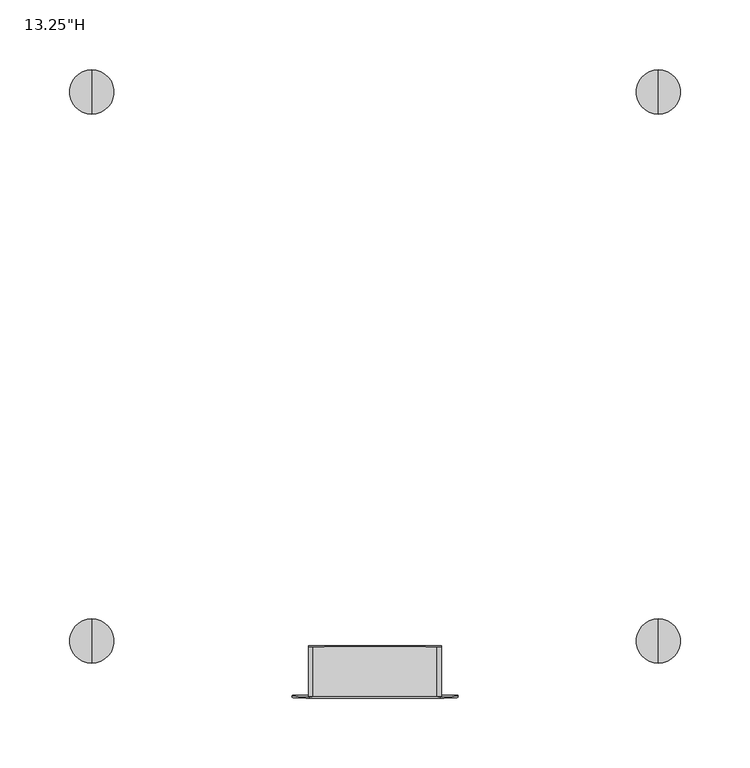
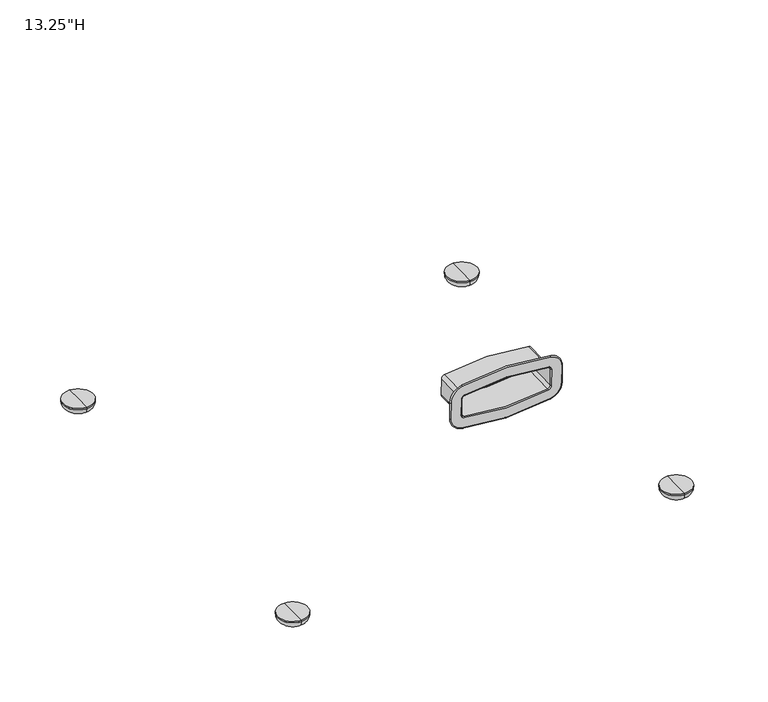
"""IFC4 building model written with IfcOpenShell, lengths in millimetres: furniture geometry."""

from ifc_helpers import new_model, si_unit, point, frame, origin, place, context, project, spatial, polyline, circle_curve, ellipse_curve, trimmed, source, transform, mapped, element, save
from ifc_brep_helpers import plane_surface, cylinder_surface, revolved_surface, advanced_brep


def furniture_26db92c6(model_context):
    return source(origin(), model_context, "Body", "AdvancedBrep", [
        advanced_brep(
        [(44.3659332, -201.1031328, 197.3409268), (46.9155939, -201.1835637, 200.4747075), (46.9155939, -201.6446412, 218.4393961), (44.3659332, -201.7250721, 221.5731768), (-44.3659332, -201.7250721, 221.5731768), (-46.9155939, -201.6446412, 218.4393961), (-46.9155939, -201.1835637, 200.4747075), (-44.3659332, -201.1031328, 197.3409268), (47.7093439, -200.390075, 200.495073), (44.5276348, -200.2897057, 196.5844434), (-44.5276348, -200.2897057, 196.5844434), (-47.7093439, -200.390075, 200.495073), (-47.7093439, -200.8511526, 218.4597616), (-44.5276348, -200.9515219, 222.3703912), (44.5276348, -200.9515219, 222.3703912), (47.7093439, -200.8511526, 218.4597616), (47.7093439, -235.9314742, 199.5828757), (44.5276348, -235.8311049, 195.6722461), (58.8197535, -236.8878332, 199.55833), (46.7910317, -236.5083785, 184.7738628), (46.9492903, -235.5325056, 184.0381004), (59.5966028, -235.9314742, 199.5828757), (46.9155939, -236.0943445, 199.5786955), (44.3659332, -236.0139136, 196.4449148), (44.5276348, -236.7874639, 195.6477005), (47.7093439, -236.8878332, 199.55833), (47.7093439, -236.3925517, 217.5475643), (59.5966028, -236.3925517, 217.5475643), (58.8197535, -237.3489107, 217.5230186), (47.7093439, -237.3489107, 217.5230186), (46.9155939, -236.555422, 217.5433841), (44.5276348, -236.492921, 221.4581939), (46.9492903, -236.7915203, 233.0923396), (46.7910317, -237.7283654, 232.3074859), (44.5276348, -237.44928, 221.4336482), (44.3659332, -236.6358529, 220.6771648), (-44.5276348, -236.492921, 221.4581939), (-46.9492903, -236.7915203, 233.0923396), (-46.7910317, -237.7283654, 232.3074859), (-44.5276348, -237.44928, 221.4336482), (-44.3659332, -236.6358529, 220.6771648), (-47.7093439, -236.3925517, 217.5475643), (-59.5966028, -236.3925517, 217.5475643), (-58.8197535, -237.3489107, 217.5230186), (-47.7093439, -237.3489107, 217.5230186), (-46.9155939, -236.555422, 217.5433841), (-47.7093439, -235.9314742, 199.5828757), (-59.5966028, -235.9314742, 199.5828757), (-58.8197535, -236.8878332, 199.55833), (-47.7093439, -236.8878332, 199.55833), (-46.9155939, -236.0943445, 199.5786955), (-44.5276348, -235.8311049, 195.6722461), (-46.9492903, -235.5325056, 184.0381004), (-46.7910317, -236.5083785, 184.7738628), (-44.5276348, -236.7874639, 195.6477005), (-44.3659332, -236.0139136, 196.4449148)],
        [
            (0, 1, circle_curve(frame((43.7136345, -201.1835637, 200.4747075), z_axis=(0.0, -0.999670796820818, -0.02565731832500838), x_axis=(0.20371858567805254, 0.025119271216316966, -0.9787071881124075)), 3.2019594)),
            (1, 2),
            (2, 3, circle_curve(frame((43.7136345, -201.6446412, 218.4393961), z_axis=(0.0, -0.999670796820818, -0.02565731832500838), x_axis=(1.0, 0.0, 0.0)), 3.2019594)),
            (3, 4, circle_curve(frame((0.0, -196.254585, 8.4298471), z_axis=(0.0, -0.999670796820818, -0.02565731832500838), x_axis=(0.2037185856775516, -0.025119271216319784, 0.9787071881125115)), 217.7804887)),
            (4, 5, circle_curve(frame((-43.7136345, -201.6446412, 218.4393961), z_axis=(0.0, -0.999670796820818, -0.02565731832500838), x_axis=(-0.20371858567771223, -0.02511927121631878, 0.9787071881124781)), 3.2019594)),
            (5, 6),
            (6, 7, circle_curve(frame((-43.7136345, -201.1835637, 200.4747075), z_axis=(0.0, -0.999670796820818, -0.02565731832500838), x_axis=(-1.0, 0.0, 0.0)), 3.2019594)),
            (7, 0, circle_curve(frame((0.0, -206.57362, 410.4842565), z_axis=(0.0, -0.999670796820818, -0.02565731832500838), x_axis=(-0.2037185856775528, 0.02511927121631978, -0.9787071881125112)), 217.7804887)),
            (8, 9, circle_curve(frame((43.7136345, -200.390075, 200.495073), z_axis=(0.0, 0.999670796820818, 0.02565731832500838), x_axis=(0.20371858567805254, 0.025119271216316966, -0.9787071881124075)), 3.9957094)),
            (9, 10, circle_curve(frame((0.0, -205.7801313, 410.504622), z_axis=(0.0, 0.999670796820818, 0.02565731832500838), x_axis=(-0.2037185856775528, 0.02511927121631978, -0.9787071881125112)), 218.5742387)),
            (10, 11, circle_curve(frame((-43.7136345, -200.390075, 200.495073), z_axis=(0.0, 0.999670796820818, 0.02565731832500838), x_axis=(-1.0, 0.0, 0.0)), 3.9957094)),
            (11, 12),
            (12, 13, circle_curve(frame((-43.7136345, -200.8511526, 218.4597616), z_axis=(0.0, 0.999670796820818, 0.02565731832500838), x_axis=(-0.20371858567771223, -0.02511927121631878, 0.9787071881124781)), 3.9957094)),
            (13, 14, circle_curve(frame((0.0, -195.4610963, 8.4502126), z_axis=(0.0, 0.999670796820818, 0.02565731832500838), x_axis=(0.2037185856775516, -0.025119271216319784, 0.9787071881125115)), 218.5742387)),
            (14, 15, circle_curve(frame((43.7136345, -200.8511526, 218.4597616), z_axis=(0.0, 0.999670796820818, 0.02565731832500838), x_axis=(1.0, 0.0, 0.0)), 3.9957094)),
            (15, 8),
            (16, 17, circle_curve(frame((43.7136345, -235.9314742, 199.5828757), z_axis=(0.0, 0.999670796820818, 0.02565731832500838), x_axis=(0.20371858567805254, 0.025119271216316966, -0.9787071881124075)), 3.9957094)),
            (17, 9),
            (8, 16),
            (18, 19, circle_curve(frame((43.7136345, -236.8878332, 199.55833), z_axis=(0.0, 0.999670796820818, 0.02565731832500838), x_axis=(0.20371858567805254, 0.025119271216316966, -0.9787071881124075)), 15.106119)),
            (19, 20, circle_curve(frame((46.7910317, -235.7148898, 184.7942283), z_axis=(0.9790294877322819, -0.005226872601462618, 0.2036515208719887), x_axis=(-0.20371858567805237, -0.025119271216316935, 0.9787071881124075)), 0.79375)),
            (20, 21, circle_curve(frame((43.7136345, -235.9314742, 199.5828757), z_axis=(0.0, -0.999670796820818, -0.02565731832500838), x_axis=(0.20371858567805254, 0.025119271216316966, -0.9787071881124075)), 15.8829683)),
            (21, 18, circle_curve(frame((58.8197535, -236.0943445, 199.5786955), z_axis=(0.0, 0.025657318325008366, -0.9996707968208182), x_axis=(-1.0000000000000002, 0.0, 0.0)), 0.79375)),
            (22, 23, circle_curve(frame((43.7136345, -236.0943445, 199.5786955), z_axis=(0.0, 0.999670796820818, 0.02565731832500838), x_axis=(0.20371858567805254, 0.025119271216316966, -0.9787071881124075)), 3.2019594)),
            (23, 24, circle_curve(frame((44.5276348, -235.9939752, 195.668066), z_axis=(0.9790294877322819, -0.005226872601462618, 0.2036515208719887), x_axis=(-0.20371858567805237, -0.025119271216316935, 0.9787071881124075)), 0.79375)),
            (24, 25, circle_curve(frame((43.7136345, -236.8878332, 199.55833), z_axis=(0.0, -0.999670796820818, -0.02565731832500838), x_axis=(0.20371858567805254, 0.025119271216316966, -0.9787071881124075)), 3.9957094)),
            (25, 22, circle_curve(frame((47.7093439, -236.0943445, 199.5786955), z_axis=(0.0, 0.02565731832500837, -0.9996707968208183), x_axis=(-1.0000000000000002, 0.0, 0.0)), 0.79375)),
            (22, 1),
            (0, 23),
            (15, 26),
            (26, 16),
            (21, 27),
            (27, 28, circle_curve(frame((58.8197535, -236.555422, 217.5433841), z_axis=(0.0, 0.02565731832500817, -0.999670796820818), x_axis=(-1.0, 0.0, 0.0)), 0.79375)),
            (28, 18),
            (25, 29),
            (29, 30, circle_curve(frame((47.7093439, -236.555422, 217.5433841), z_axis=(0.0, 0.02565731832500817, -0.999670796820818), x_axis=(-1.0, 0.0, 0.0)), 0.79375)),
            (30, 22),
            (30, 2),
            (14, 31),
            (31, 26, circle_curve(frame((43.7136345, -236.3925517, 217.5475643), z_axis=(0.0, 0.999670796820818, 0.02565731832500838), x_axis=(1.0, 0.0, 0.0)), 3.9957094)),
            (27, 32, circle_curve(frame((43.7136345, -236.3925517, 217.5475643), z_axis=(0.0, -0.999670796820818, -0.02565731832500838), x_axis=(1.0, 0.0, 0.0)), 15.8829683)),
            (32, 33, circle_curve(frame((46.7910317, -236.9348767, 232.3278514), z_axis=(0.9790294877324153, 0.005226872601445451, -0.20365152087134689), x_axis=(-0.20371858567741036, 0.025119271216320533, -0.9787071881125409)), 0.79375)),
            (33, 28, circle_curve(frame((43.7136345, -237.3489107, 217.5230186), z_axis=(0.0, 0.999670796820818, 0.02565731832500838), x_axis=(1.0, 0.0, 0.0)), 15.106119)),
            (29, 34, circle_curve(frame((43.7136345, -237.3489107, 217.5230186), z_axis=(0.0, -0.999670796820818, -0.02565731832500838), x_axis=(1.0, 0.0, 0.0)), 3.9957094)),
            (34, 35, circle_curve(frame((44.5276348, -236.6557914, 221.4540137), z_axis=(0.9790294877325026, 0.005226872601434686, -0.20365152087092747), x_axis=(-0.2037185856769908, 0.025119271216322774, -0.9787071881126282)), 0.79375)),
            (35, 30, circle_curve(frame((43.7136345, -236.555422, 217.5433841), z_axis=(0.0, 0.999670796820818, 0.02565731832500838), x_axis=(1.0, 0.0, 0.0)), 3.2019594)),
            (35, 3),
            (13, 36),
            (36, 31, circle_curve(frame((0.0, -231.0024954, 7.5380153), z_axis=(0.0, 0.999670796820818, 0.02565731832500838), x_axis=(0.2037185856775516, -0.025119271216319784, 0.9787071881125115)), 218.5742387)),
            (32, 37, circle_curve(frame((0.0, -231.0024954, 7.5380153), z_axis=(0.0, -0.999670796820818, -0.02565731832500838), x_axis=(0.2037185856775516, -0.025119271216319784, 0.9787071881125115)), 230.4614976)),
            (37, 38, circle_curve(frame((-46.7910317, -236.9348767, 232.3278514), z_axis=(0.9790294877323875, -0.005226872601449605, 0.20365152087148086), x_axis=(0.20371858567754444, 0.025119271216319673, -0.978707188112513)), 0.79375)),
            (38, 33, circle_curve(frame((0.0, -231.9588545, 7.5134696), z_axis=(0.0, 0.999670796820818, 0.02565731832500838), x_axis=(0.2037185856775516, -0.025119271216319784, 0.9787071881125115)), 229.6846483)),
            (34, 39, circle_curve(frame((0.0, -231.9588545, 7.5134696), z_axis=(0.0, -0.999670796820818, -0.02565731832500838), x_axis=(0.2037185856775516, -0.025119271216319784, 0.9787071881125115)), 218.5742387)),
            (39, 40, circle_curve(frame((-44.5276348, -236.6557914, 221.4540137), z_axis=(0.9790294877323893, -0.0052268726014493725, 0.2036515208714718), x_axis=(0.20371858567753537, 0.025119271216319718, -0.9787071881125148)), 0.79375)),
            (40, 35, circle_curve(frame((0.0, -231.1653658, 7.5338351), z_axis=(0.0, 0.999670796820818, 0.02565731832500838), x_axis=(0.2037185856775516, -0.025119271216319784, 0.9787071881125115)), 217.7804887)),
            (40, 4),
            (12, 41),
            (41, 36, circle_curve(frame((-43.7136345, -236.3925517, 217.5475643), z_axis=(0.0, 0.999670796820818, 0.02565731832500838), x_axis=(-0.20371858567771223, -0.02511927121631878, 0.9787071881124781)), 3.9957094)),
            (37, 42, circle_curve(frame((-43.7136345, -236.3925517, 217.5475643), z_axis=(0.0, -0.999670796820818, -0.02565731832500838), x_axis=(-0.20371858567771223, -0.02511927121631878, 0.9787071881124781)), 15.8829683)),
            (42, 43, circle_curve(frame((-58.8197535, -236.555422, 217.5433841), z_axis=(0.0, -0.025657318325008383, 0.9996707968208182), x_axis=(1.0000000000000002, 0.0, 0.0)), 0.79375)),
            (43, 38, circle_curve(frame((-43.7136345, -237.3489107, 217.5230186), z_axis=(0.0, 0.999670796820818, 0.02565731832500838), x_axis=(-0.20371858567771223, -0.02511927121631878, 0.9787071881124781)), 15.106119)),
            (39, 44, circle_curve(frame((-43.7136345, -237.3489107, 217.5230186), z_axis=(0.0, -0.999670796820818, -0.02565731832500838), x_axis=(-0.20371858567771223, -0.02511927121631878, 0.9787071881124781)), 3.9957094)),
            (44, 45, circle_curve(frame((-47.7093439, -236.555422, 217.5433841), z_axis=(0.0, -0.025657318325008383, 0.999670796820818), x_axis=(1.0000000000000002, 0.0, 0.0)), 0.79375)),
            (45, 40, circle_curve(frame((-43.7136345, -236.555422, 217.5433841), z_axis=(0.0, 0.999670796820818, 0.02565731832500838), x_axis=(-0.20371858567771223, -0.02511927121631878, 0.9787071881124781)), 3.2019594)),
            (45, 5),
            (11, 46),
            (46, 41),
            (42, 47),
            (47, 48, circle_curve(frame((-58.8197535, -236.0943445, 199.5786955), z_axis=(0.0, -0.02565731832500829, 0.999670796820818), x_axis=(1.0, 0.0, 0.0)), 0.79375)),
            (48, 43),
            (44, 49),
            (49, 50, circle_curve(frame((-47.7093439, -236.0943445, 199.5786955), z_axis=(0.0, -0.02565731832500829, 0.999670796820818), x_axis=(1.0, 0.0, 0.0)), 0.79375)),
            (50, 45),
            (50, 6),
            (10, 51),
            (51, 46, circle_curve(frame((-43.7136345, -235.9314742, 199.5828757), z_axis=(0.0, 0.999670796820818, 0.02565731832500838), x_axis=(-1.0, 0.0, 0.0)), 3.9957094)),
            (47, 52, circle_curve(frame((-43.7136345, -235.9314742, 199.5828757), z_axis=(0.0, -0.999670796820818, -0.02565731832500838), x_axis=(-1.0, 0.0, 0.0)), 15.8829683)),
            (52, 53, circle_curve(frame((-46.7910317, -235.7148898, 184.7942283), z_axis=(-0.9790294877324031, -0.005226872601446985, 0.20365152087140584), x_axis=(0.2037185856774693, -0.02511927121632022, 0.9787071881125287)), 0.79375)),
            (53, 48, circle_curve(frame((-43.7136345, -236.8878332, 199.55833), z_axis=(0.0, 0.999670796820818, 0.02565731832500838), x_axis=(-1.0, 0.0, 0.0)), 15.106119)),
            (49, 54, circle_curve(frame((-43.7136345, -236.8878332, 199.55833), z_axis=(0.0, -0.999670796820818, -0.02565731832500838), x_axis=(-1.0, 0.0, 0.0)), 3.9957094)),
            (54, 55, circle_curve(frame((-44.5276348, -235.9939752, 195.668066), z_axis=(-0.9790294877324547, -0.005226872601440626, 0.2036515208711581), x_axis=(0.20371858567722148, -0.025119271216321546, 0.9787071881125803)), 0.79375)),
            (55, 50, circle_curve(frame((-43.7136345, -236.0943445, 199.5786955), z_axis=(0.0, 0.999670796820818, 0.02565731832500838), x_axis=(-1.0, 0.0, 0.0)), 3.2019594)),
            (55, 7),
            (17, 51, circle_curve(frame((0.0, -241.3215305, 409.5924247), z_axis=(0.0, 0.999670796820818, 0.02565731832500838), x_axis=(-0.2037185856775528, 0.02511927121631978, -0.9787071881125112)), 218.5742387)),
            (20, 52, circle_curve(frame((0.0, -241.3215305, 409.5924247), z_axis=(0.0, 0.999670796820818, 0.02565731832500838), x_axis=(-0.2037185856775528, 0.02511927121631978, -0.9787071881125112)), 230.4614976)),
            (19, 53, circle_curve(frame((0.0, -242.2778895, 409.567879), z_axis=(0.0, 0.999670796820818, 0.02565731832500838), x_axis=(-0.2037185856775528, 0.02511927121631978, -0.9787071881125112)), 229.6846483)),
            (24, 54, circle_curve(frame((0.0, -242.2778895, 409.567879), z_axis=(0.0, 0.999670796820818, 0.02565731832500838), x_axis=(-0.2037185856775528, 0.02511927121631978, -0.9787071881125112)), 218.5742387)),
            (23, 55, circle_curve(frame((0.0, -241.4844008, 409.5882445), z_axis=(0.0, 0.999670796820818, 0.02565731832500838), x_axis=(-0.2037185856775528, 0.02511927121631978, -0.9787071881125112)), 217.7804887)),
        ],
        [
            plane_surface(frame((-40.5788218, -201.627905, 217.7873122), z_axis=(0.0, -0.999670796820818, -0.02565731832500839), x_axis=(0.20371858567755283, -0.025119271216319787, 0.9787071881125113))),
            plane_surface(frame((-40.5788218, -200.8344163, 217.8076777), z_axis=(0.0, 0.999670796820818, 0.02565731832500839), x_axis=(-0.20371858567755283, 0.025119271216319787, -0.9787071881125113))),
            cylinder_surface(frame((43.7136345, -235.9314742, 199.5828757), z_axis=(0.0, -0.999670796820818, -0.02565731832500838), x_axis=(0.20371858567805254, 0.025119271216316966, -0.9787071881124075)), 3.9957094),
            revolved_surface(trimmed(ellipse_curve(frame((46.7910317, -235.7148898, 184.7942283), z_axis=(-0.9790294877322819, 0.005226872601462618, -0.2036515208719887), x_axis=(-0.20371858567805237, -0.025119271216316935, 0.9787071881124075)), 0.79375, 0.79375), [point((46.9492903, -235.5325056, 184.0381004))], [point((46.7910317, -236.5083785, 184.7738628))], True, "CARTESIAN"), (43.7136345, -235.9314742, 199.5828757), (0.0, -0.999670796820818, -0.02565731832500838)),
            revolved_surface(trimmed(ellipse_curve(frame((44.5276348, -235.9939752, 195.668066), z_axis=(-0.9790294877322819, 0.005226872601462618, -0.2036515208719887), x_axis=(-0.20371858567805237, -0.025119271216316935, 0.9787071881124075)), 0.79375, 0.79375), [point((44.5276348, -236.7874639, 195.6477005))], [point((44.3659332, -236.0139136, 196.4449148))], True, "CARTESIAN"), (43.7136345, -235.9314742, 199.5828757), (0.0, -0.999670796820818, -0.02565731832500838)),
            revolved_surface(polyline([(44.36593314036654, -236.01391361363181, 196.4449148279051), (44.36593314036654, -201.10313280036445, 197.34092681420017)]), (43.7136345, -235.9314742, 199.5828757), (0.0, -0.999670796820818, -0.02565731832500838)),
            plane_surface(frame((47.7093439, -200.390075, 200.495073), z_axis=(1.0, 0.0, 0.0), x_axis=(0.0, -0.025657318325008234, 0.999670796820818))),
            cylinder_surface(frame((58.8197535, -236.0943445, 199.5786955), z_axis=(0.0, 0.02565731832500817, -0.999670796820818), x_axis=(-1.0, 0.0, 0.0)), 0.79375),
            cylinder_surface(frame((47.7093439, -236.0943445, 199.5786955), z_axis=(0.0, 0.02565731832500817, -0.999670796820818), x_axis=(-1.0, 0.0, 0.0)), 0.79375),
            plane_surface(frame((46.9155939, -236.0943445, 199.5786955), z_axis=(-1.0, 0.0, 0.0), x_axis=(0.0, -0.025657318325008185, 0.999670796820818))),
            cylinder_surface(frame((43.7136345, -236.3925517, 217.5475643), z_axis=(0.0, -0.999670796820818, -0.02565731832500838), x_axis=(1.0, 0.0, 0.0)), 3.9957094),
            revolved_surface(trimmed(ellipse_curve(frame((58.8197535, -236.555422, 217.5433841), z_axis=(0.0, 0.025657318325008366, -0.999670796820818), x_axis=(-1.0, 0.0, 0.0)), 0.79375, 0.79375), [point((59.5966028, -236.3925517, 217.5475643))], [point((58.8197535, -237.3489107, 217.5230186))], True, "CARTESIAN"), (43.7136345, -236.3925517, 217.5475643), (0.0, -0.999670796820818, -0.02565731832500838)),
            revolved_surface(trimmed(ellipse_curve(frame((47.7093439, -236.555422, 217.5433841), z_axis=(0.0, 0.025657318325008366, -0.999670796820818), x_axis=(-1.0, 0.0, 0.0)), 0.79375, 0.79375), [point((47.7093439, -237.3489107, 217.5230186))], [point((46.9155939, -236.555422, 217.5433841))], True, "CARTESIAN"), (43.7136345, -236.3925517, 217.5475643), (0.0, -0.999670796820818, -0.02565731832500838)),
            revolved_surface(polyline([(46.9155939, -236.55542201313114, 217.54338410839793), (46.9155939, -201.64464119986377, 218.43939609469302)]), (43.7136345, -236.3925517, 217.5475643), (0.0, -0.999670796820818, -0.02565731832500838)),
            cylinder_surface(frame((0.0, -231.0024954, 7.5380153), z_axis=(0.0, -0.999670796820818, -0.02565731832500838), x_axis=(0.2037185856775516, -0.025119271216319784, 0.9787071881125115)), 218.5742387),
            revolved_surface(trimmed(ellipse_curve(frame((46.7910317, -236.9348767, 232.3278514), z_axis=(0.979029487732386, 0.005226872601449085, -0.20365152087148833), x_axis=(-0.20371858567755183, 0.025119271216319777, -0.9787071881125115)), 0.79375, 0.79375), [point((46.9492903, -236.7915203, 233.0923396))], [point((46.7910317, -237.7283654, 232.3074859))], True, "CARTESIAN"), (0.0, -231.0024954, 7.5380153), (0.0, -0.999670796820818, -0.02565731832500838)),
            revolved_surface(trimmed(ellipse_curve(frame((44.5276348, -236.6557914, 221.4540137), z_axis=(0.979029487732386, 0.005226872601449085, -0.20365152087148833), x_axis=(-0.20371858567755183, 0.025119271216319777, -0.9787071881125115)), 0.79375, 0.79375), [point((44.5276348, -237.44928, 221.4336482))], [point((44.3659332, -236.6358529, 220.6771648))], True, "CARTESIAN"), (0.0, -231.0024954, 7.5380153), (0.0, -0.999670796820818, -0.02565731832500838)),
            revolved_surface(polyline([(44.36593314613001, -236.63585296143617, 220.67716482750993), (44.36593314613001, -201.7250721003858, 221.5731768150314)]), (0.0, -231.0024954, 7.5380153), (0.0, -0.999670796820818, -0.02565731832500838)),
            cylinder_surface(frame((-43.7136345, -236.3925517, 217.5475643), z_axis=(0.0, -0.999670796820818, -0.02565731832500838), x_axis=(-0.20371858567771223, -0.02511927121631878, 0.9787071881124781)), 3.9957094),
            revolved_surface(trimmed(ellipse_curve(frame((-46.7910317, -236.9348767, 232.3278514), z_axis=(0.9790294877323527, -0.005226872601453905, 0.2036515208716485), x_axis=(0.20371858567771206, 0.025119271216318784, -0.9787071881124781)), 0.79375, 0.79375), [point((-46.9492903, -236.7915203, 233.0923396))], [point((-46.7910317, -237.7283654, 232.3074859))], True, "CARTESIAN"), (-43.7136345, -236.3925517, 217.5475643), (0.0, -0.999670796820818, -0.02565731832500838)),
            revolved_surface(trimmed(ellipse_curve(frame((-44.5276348, -236.6557914, 221.4540137), z_axis=(0.9790294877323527, -0.005226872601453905, 0.2036515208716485), x_axis=(0.20371858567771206, 0.025119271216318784, -0.9787071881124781)), 0.79375, 0.79375), [point((-44.5276348, -237.44928, 221.4336482))], [point((-44.3659332, -236.6358529, 220.6771648))], True, "CARTESIAN"), (-43.7136345, -236.3925517, 217.5475643), (0.0, -0.999670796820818, -0.02565731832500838)),
            revolved_surface(polyline([(-44.365933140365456, -236.63585289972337, 220.67716478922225), (-44.365933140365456, -201.725072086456, 221.57317677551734)]), (-43.7136345, -236.3925517, 217.5475643), (0.0, -0.999670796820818, -0.02565731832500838)),
            plane_surface(frame((-47.7093439, -200.8511526, 218.4597616), z_axis=(-1.0, 0.0, 0.0), x_axis=(0.0, 0.025657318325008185, -0.999670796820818))),
            cylinder_surface(frame((-58.8197535, -236.555422, 217.5433841), z_axis=(0.0, -0.02565731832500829, 0.999670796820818), x_axis=(1.0, 0.0, 0.0)), 0.79375),
            cylinder_surface(frame((-47.7093439, -236.555422, 217.5433841), z_axis=(0.0, -0.02565731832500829, 0.999670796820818), x_axis=(1.0, 0.0, 0.0)), 0.79375),
            plane_surface(frame((-46.9155939, -236.555422, 217.5433841), z_axis=(1.0, 0.0, 0.0), x_axis=(0.0, 0.025657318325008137, -0.999670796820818))),
            cylinder_surface(frame((-43.7136345, -235.9314742, 199.5828757), z_axis=(0.0, -0.999670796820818, -0.02565731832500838), x_axis=(-1.0, 0.0, 0.0)), 3.9957094),
            revolved_surface(trimmed(ellipse_curve(frame((-58.8197535, -236.0943445, 199.5786955), z_axis=(0.0, -0.025657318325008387, 0.999670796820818), x_axis=(1.0, 0.0, 0.0)), 0.79375, 0.79375), [point((-59.5966028, -235.9314742, 199.5828757))], [point((-58.8197535, -236.8878332, 199.55833))], True, "CARTESIAN"), (-43.7136345, -235.9314742, 199.5828757), (0.0, -0.999670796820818, -0.02565731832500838)),
            revolved_surface(trimmed(ellipse_curve(frame((-47.7093439, -236.0943445, 199.5786955), z_axis=(0.0, -0.025657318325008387, 0.999670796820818), x_axis=(1.0, 0.0, 0.0)), 0.79375, 0.79375), [point((-47.7093439, -236.8878332, 199.55833))], [point((-46.9155939, -236.0943445, 199.5786955))], True, "CARTESIAN"), (-43.7136345, -235.9314742, 199.5828757), (0.0, -0.999670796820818, -0.02565731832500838)),
            revolved_surface(polyline([(-46.9155939, -236.09434450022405, 199.5786955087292), (-46.9155939, -201.1835636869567, 200.47470749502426)]), (-43.7136345, -235.9314742, 199.5828757), (0.0, -0.999670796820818, -0.02565731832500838)),
            cylinder_surface(frame((0.0, -241.3215305, 409.5924247), z_axis=(0.0, -0.999670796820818, -0.02565731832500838), x_axis=(-0.2037185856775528, 0.02511927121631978, -0.9787071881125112)), 218.5742387),
            plane_surface(frame((0.0, -241.3215305, 409.5924247), z_axis=(0.0, 0.999670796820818, 0.025657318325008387), x_axis=(-0.20371858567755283, 0.025119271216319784, -0.9787071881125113))),
            revolved_surface(trimmed(ellipse_curve(frame((-46.7910317, -235.7148898, 184.7942283), z_axis=(-0.9790294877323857, -0.005226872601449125, 0.20365152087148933), x_axis=(0.20371858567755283, -0.0251192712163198, 0.9787071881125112)), 0.79375, 0.79375), [point((-46.9492903, -235.5325056, 184.0381004))], [point((-46.7910317, -236.5083785, 184.7738628))], True, "CARTESIAN"), (0.0, -241.3215305, 409.5924247), (0.0, -0.999670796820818, -0.02565731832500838)),
            plane_surface(frame((0.0, -242.2778895, 409.567879), z_axis=(0.0, -0.999670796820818, -0.025657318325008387), x_axis=(-0.20371858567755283, 0.025119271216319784, -0.9787071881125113))),
            revolved_surface(trimmed(ellipse_curve(frame((-44.5276348, -235.9939752, 195.668066), z_axis=(-0.9790294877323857, -0.005226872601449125, 0.20365152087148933), x_axis=(0.20371858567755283, -0.0251192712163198, 0.9787071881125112)), 0.79375, 0.79375), [point((-44.5276348, -236.7874639, 195.6477005))], [point((-44.3659332, -236.0139136, 196.4449148))], True, "CARTESIAN"), (0.0, -241.3215305, 409.5924247), (0.0, -0.999670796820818, -0.02565731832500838)),
            revolved_surface(polyline([(-44.36593314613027, -236.0139136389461, 196.44491478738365), (-44.36593314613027, -201.10313279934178, 197.34092677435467)]), (0.0, -241.3215305, 409.5924247), (0.0, -0.999670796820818, -0.02565731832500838)),
        ],
        [
            (0, [[1, 2, 3, 4, 5, 6, 7, 8]]),
            (1, [[9, 10, 11, 12, 13, 14, 15, 16]]),
            (2, [[17, 18, -9, 19]]),
            (3, [[20, 21, 22, 23]]),
            (4, [[24, 25, 26, 27]]),
            (5, [[-24, 28, -1, 29]]),
            (6, [[-19, -16, 30, 31]]),
            (7, [[-23, 32, 33, 34]]),
            (8, [[-27, 35, 36, 37]]),
            (9, [[-37, 38, -2, -28]]),
            (10, [[-30, -15, 39, 40]]),
            (11, [[-33, 41, 42, 43]]),
            (12, [[-36, 44, 45, 46]]),
            (13, [[-46, 47, -3, -38]]),
            (14, [[-39, -14, 48, 49]]),
            (15, [[-42, 50, 51, 52]]),
            (16, [[-45, 53, 54, 55]]),
            (17, [[-55, 56, -4, -47]]),
            (18, [[-48, -13, 57, 58]]),
            (19, [[-51, 59, 60, 61]]),
            (20, [[-54, 62, 63, 64]]),
            (21, [[-64, 65, -5, -56]]),
            (22, [[-57, -12, 66, 67]]),
            (23, [[-60, 68, 69, 70]]),
            (24, [[-63, 71, 72, 73]]),
            (25, [[-73, 74, -6, -65]]),
            (26, [[-66, -11, 75, 76]]),
            (27, [[-69, 77, 78, 79]]),
            (28, [[-72, 80, 81, 82]]),
            (29, [[-82, 83, -7, -74]]),
            (30, [[-18, 84, -75, -10]]),
            (31, [[-22, 85, -77, -68, -59, -50, -41, -32], [-17, -31, -40, -49, -58, -67, -76, -84]]),
            (32, [[-21, 86, -78, -85]]),
            (33, [[-20, -34, -43, -52, -61, -70, -79, -86], [-26, 87, -80, -71, -62, -53, -44, -35]]),
            (34, [[-25, 88, -81, -87]]),
            (35, [[-88, -29, -8, -83]]),
        ],
    ),
        advanced_brep(
        [(203.198745, -188.876713, 0.0), (203.198745, -204.827028, 0.0), (203.198745, -196.8518705, 0.0), (203.198745, -180.9768705, 7.8998425), (203.198745, -212.7268705, 7.8998425), (203.198745, -180.9768705, 9.525), (203.198745, -212.7268705, 9.525), (203.198745, -196.8518705, 9.525)],
        [
            (0, 1, circle_curve(frame((203.198745, -196.8518705, 0.0), z_axis=(0.0, 0.0, -1.0), x_axis=(0.0, -1.0, 0.0)), 7.9751575)),
            (1, 2),
            (2, 0),
            (1, 0, circle_curve(frame((203.198745, -196.8518705, 0.0), z_axis=(0.0, 0.0, -1.0), x_axis=(0.0, -1.0, 0.0)), 7.9751575)),
            (3, 4, circle_curve(frame((203.198745, -196.8518705, 7.8998425), z_axis=(0.0, 0.0, -1.0), x_axis=(0.0, -1.0, 0.0)), 15.875)),
            (4, 1, circle_curve(frame((203.198745, -204.827028, 7.8998425), z_axis=(1.0, 0.0, 0.0), x_axis=(0.0, -1.0, 0.0)), 7.8998425)),
            (0, 3, circle_curve(frame((203.198745, -188.876713, 7.8998425), z_axis=(1.0, 0.0, 0.0), x_axis=(0.0, 1.0, 0.0)), 7.8998425)),
            (4, 3, circle_curve(frame((203.198745, -196.8518705, 7.8998425), z_axis=(0.0, 0.0, -1.0), x_axis=(0.0, -1.0, 0.0)), 15.875)),
            (5, 6, circle_curve(frame((203.198745, -196.8518705, 9.525), z_axis=(0.0, 0.0, -1.0), x_axis=(0.0, -1.0, 0.0)), 15.875)),
            (6, 4),
            (3, 5),
            (6, 5, circle_curve(frame((203.198745, -196.8518705, 9.525), z_axis=(0.0, 0.0, -1.0), x_axis=(0.0, -1.0, 0.0)), 15.875)),
            (7, 6),
            (5, 7),
        ],
        [
            plane_surface(frame((203.198745, -196.8518705, 0.0), z_axis=(0.0, 0.0, -1.0), x_axis=(0.0, -1.0, 0.0))),
            revolved_surface(trimmed(ellipse_curve(frame((203.198745, -204.827028, 7.8998425), z_axis=(-1.0, 0.0, 0.0), x_axis=(0.0, -1.0, 0.0)), 7.8998425, 7.8998425), [point((203.198745, -204.827028, 0.0))], [point((203.198745, -212.7268705, 7.8998425))], True, "CARTESIAN"), (203.198745, -196.8518705, 12.3279495), (0.0, 0.0, 1.0)),
            cylinder_surface(frame((203.198745, -196.8518705, 12.3279495), z_axis=(0.0, 0.0, 1.0), x_axis=(0.0, -1.0, 0.0)), 15.875),
            plane_surface(frame((203.198745, -196.8518705, 9.525), z_axis=(0.0, 0.0, 1.0), x_axis=(0.0, -1.0, 0.0))),
        ],
        [
            (0, [[1, 2, 3]]),
            (0, [[4, -3, -2]]),
            (1, [[5, 6, -1, 7]]),
            (1, [[8, -7, -4, -6]]),
            (2, [[9, 10, -5, 11]]),
            (2, [[12, -11, -8, -10]]),
            (3, [[13, -9, 14]]),
            (3, [[-14, -12, -13]]),
        ],
    ),
        advanced_brep(
        [(203.198745, 196.8518705, 0.0), (203.198745, 204.827028, 0.0), (203.198745, 188.876713, 0.0), (203.198745, 212.7268705, 7.8998425), (203.198745, 180.9768705, 7.8998425), (203.198745, 212.7268705, 9.525), (203.198745, 180.9768705, 9.525), (203.198745, 196.8518705, 9.525)],
        [
            (0, 1),
            (1, 2, circle_curve(frame((203.198745, 196.8518705, 0.0), z_axis=(0.0, 0.0, -1.0), x_axis=(0.0, 1.0, 0.0)), 7.9751575)),
            (2, 0),
            (2, 1, circle_curve(frame((203.198745, 196.8518705, 0.0), z_axis=(0.0, 0.0, -1.0), x_axis=(0.0, 1.0, 0.0)), 7.9751575)),
            (1, 3, circle_curve(frame((203.198745, 204.827028, 7.8998425), z_axis=(1.0, 0.0, 0.0), x_axis=(0.0, 1.0, 0.0)), 7.8998425)),
            (3, 4, circle_curve(frame((203.198745, 196.8518705, 7.8998425), z_axis=(0.0, 0.0, -1.0), x_axis=(0.0, 1.0, 0.0)), 15.875)),
            (4, 2, circle_curve(frame((203.198745, 188.876713, 7.8998425), z_axis=(1.0, 0.0, 0.0), x_axis=(0.0, -1.0, 0.0)), 7.8998425)),
            (4, 3, circle_curve(frame((203.198745, 196.8518705, 7.8998425), z_axis=(0.0, 0.0, -1.0), x_axis=(0.0, 1.0, 0.0)), 15.875)),
            (3, 5),
            (5, 6, circle_curve(frame((203.198745, 196.8518705, 9.525), z_axis=(0.0, 0.0, -1.0), x_axis=(0.0, 1.0, 0.0)), 15.875)),
            (6, 4),
            (6, 5, circle_curve(frame((203.198745, 196.8518705, 9.525), z_axis=(0.0, 0.0, -1.0), x_axis=(0.0, 1.0, 0.0)), 15.875)),
            (5, 7),
            (7, 6),
        ],
        [
            plane_surface(frame((203.198745, 196.8518705, 0.0), z_axis=(0.0, 0.0, -1.0), x_axis=(0.0, 1.0, 0.0))),
            revolved_surface(trimmed(ellipse_curve(frame((203.198745, 204.827028, 7.8998425), z_axis=(-1.0, 0.0, 0.0), x_axis=(0.0, 1.0, 0.0)), 7.8998425, 7.8998425), [point((203.198745, 212.7268705, 7.8998425))], [point((203.198745, 204.827028, 0.0))], True, "CARTESIAN"), (203.198745, 196.8518705, 12.3279495), (0.0, 0.0, -1.0)),
            cylinder_surface(frame((203.198745, 196.8518705, 12.3279495), z_axis=(0.0, 0.0, -1.0), x_axis=(0.0, 1.0, 0.0)), 15.875),
            plane_surface(frame((203.198745, 196.8518705, 9.525), z_axis=(0.0, 0.0, 1.0), x_axis=(0.0, 1.0, 0.0))),
        ],
        [
            (0, [[1, 2, 3]]),
            (0, [[-3, 4, -1]]),
            (1, [[-2, 5, 6, 7]]),
            (1, [[-4, -7, 8, -5]]),
            (2, [[-6, 9, 10, 11]]),
            (2, [[-8, -11, 12, -9]]),
            (3, [[-10, 13, 14]]),
            (3, [[-12, -14, -13]]),
        ],
    ),
        advanced_brep(
        [(-203.198745, -196.8518705, 0.0), (-203.198745, -204.827028, 0.0), (-203.198745, -188.876713, 0.0), (-203.198745, -212.7268705, 7.8998425), (-203.198745, -180.9768705, 7.8998425), (-203.198745, -212.7268705, 9.525), (-203.198745, -180.9768705, 9.525), (-203.198745, -196.8518705, 9.525)],
        [
            (0, 1),
            (1, 2, circle_curve(frame((-203.198745, -196.8518705, 0.0), z_axis=(0.0, 0.0, -1.0), x_axis=(0.0, -1.0, 0.0)), 7.9751575)),
            (2, 0),
            (2, 1, circle_curve(frame((-203.198745, -196.8518705, 0.0), z_axis=(0.0, 0.0, -1.0), x_axis=(0.0, -1.0, 0.0)), 7.9751575)),
            (1, 3, circle_curve(frame((-203.198745, -204.827028, 7.8998425), z_axis=(-1.0, 0.0, 0.0), x_axis=(0.0, -1.0, 0.0)), 7.8998425)),
            (3, 4, circle_curve(frame((-203.198745, -196.8518705, 7.8998425), z_axis=(0.0, 0.0, -1.0), x_axis=(0.0, -1.0, 0.0)), 15.875)),
            (4, 2, circle_curve(frame((-203.198745, -188.876713, 7.8998425), z_axis=(-1.0, 0.0, 0.0), x_axis=(0.0, 1.0, 0.0)), 7.8998425)),
            (4, 3, circle_curve(frame((-203.198745, -196.8518705, 7.8998425), z_axis=(0.0, 0.0, -1.0), x_axis=(0.0, -1.0, 0.0)), 15.875)),
            (3, 5),
            (5, 6, circle_curve(frame((-203.198745, -196.8518705, 9.525), z_axis=(0.0, 0.0, -1.0), x_axis=(0.0, -1.0, 0.0)), 15.875)),
            (6, 4),
            (6, 5, circle_curve(frame((-203.198745, -196.8518705, 9.525), z_axis=(0.0, 0.0, -1.0), x_axis=(0.0, -1.0, 0.0)), 15.875)),
            (5, 7),
            (7, 6),
        ],
        [
            plane_surface(frame((-203.198745, -196.8518705, 0.0), z_axis=(0.0, 0.0, -1.0), x_axis=(0.0, -1.0, 0.0))),
            revolved_surface(trimmed(ellipse_curve(frame((-203.198745, -204.827028, 7.8998425), z_axis=(1.0, 0.0, 0.0), x_axis=(0.0, -1.0, 0.0)), 7.8998425, 7.8998425), [point((-203.198745, -212.7268705, 7.8998425))], [point((-203.198745, -204.827028, 0.0))], True, "CARTESIAN"), (-203.198745, -196.8518705, 12.3279495), (0.0, 0.0, -1.0)),
            cylinder_surface(frame((-203.198745, -196.8518705, 12.3279495), z_axis=(0.0, 0.0, -1.0), x_axis=(0.0, -1.0, 0.0)), 15.875),
            plane_surface(frame((-203.198745, -196.8518705, 9.525), z_axis=(0.0, 0.0, 1.0), x_axis=(0.0, -1.0, 0.0))),
        ],
        [
            (0, [[1, 2, 3]]),
            (0, [[-3, 4, -1]]),
            (1, [[-2, 5, 6, 7]]),
            (1, [[-4, -7, 8, -5]]),
            (2, [[-6, 9, 10, 11]]),
            (2, [[-8, -11, 12, -9]]),
            (3, [[-10, 13, 14]]),
            (3, [[-12, -14, -13]]),
        ],
    ),
        advanced_brep(
        [(-203.198745, 188.876713, 0.0), (-203.198745, 204.827028, 0.0), (-203.198745, 196.8518705, 0.0), (-203.198745, 180.9768705, 7.8998425), (-203.198745, 212.7268705, 7.8998425), (-203.198745, 180.9768705, 9.525), (-203.198745, 212.7268705, 9.525), (-203.198745, 196.8518705, 9.525)],
        [
            (0, 1, circle_curve(frame((-203.198745, 196.8518705, 0.0), z_axis=(0.0, 0.0, -1.0), x_axis=(0.0, 1.0, 0.0)), 7.9751575)),
            (1, 2),
            (2, 0),
            (1, 0, circle_curve(frame((-203.198745, 196.8518705, 0.0), z_axis=(0.0, 0.0, -1.0), x_axis=(0.0, 1.0, 0.0)), 7.9751575)),
            (3, 4, circle_curve(frame((-203.198745, 196.8518705, 7.8998425), z_axis=(0.0, 0.0, -1.0), x_axis=(0.0, 1.0, 0.0)), 15.875)),
            (4, 1, circle_curve(frame((-203.198745, 204.827028, 7.8998425), z_axis=(-1.0, 0.0, 0.0), x_axis=(0.0, 1.0, 0.0)), 7.8998425)),
            (0, 3, circle_curve(frame((-203.198745, 188.876713, 7.8998425), z_axis=(-1.0, 0.0, 0.0), x_axis=(0.0, -1.0, 0.0)), 7.8998425)),
            (4, 3, circle_curve(frame((-203.198745, 196.8518705, 7.8998425), z_axis=(0.0, 0.0, -1.0), x_axis=(0.0, 1.0, 0.0)), 15.875)),
            (5, 6, circle_curve(frame((-203.198745, 196.8518705, 9.525), z_axis=(0.0, 0.0, -1.0), x_axis=(0.0, 1.0, 0.0)), 15.875)),
            (6, 4),
            (3, 5),
            (6, 5, circle_curve(frame((-203.198745, 196.8518705, 9.525), z_axis=(0.0, 0.0, -1.0), x_axis=(0.0, 1.0, 0.0)), 15.875)),
            (7, 6),
            (5, 7),
        ],
        [
            plane_surface(frame((-203.198745, 196.8518705, 0.0), z_axis=(0.0, 0.0, -1.0), x_axis=(0.0, 1.0, 0.0))),
            revolved_surface(trimmed(ellipse_curve(frame((-203.198745, 204.827028, 7.8998425), z_axis=(1.0, 0.0, 0.0), x_axis=(0.0, 1.0, 0.0)), 7.8998425, 7.8998425), [point((-203.198745, 204.827028, 0.0))], [point((-203.198745, 212.7268705, 7.8998425))], True, "CARTESIAN"), (-203.198745, 196.8518705, 12.3279495), (0.0, 0.0, 1.0)),
            cylinder_surface(frame((-203.198745, 196.8518705, 12.3279495), z_axis=(0.0, 0.0, 1.0), x_axis=(0.0, 1.0, 0.0)), 15.875),
            plane_surface(frame((-203.198745, 196.8518705, 9.525), z_axis=(0.0, 0.0, 1.0), x_axis=(0.0, 1.0, 0.0))),
        ],
        [
            (0, [[1, 2, 3]]),
            (0, [[4, -3, -2]]),
            (1, [[5, 6, -1, 7]]),
            (1, [[8, -7, -4, -6]]),
            (2, [[9, 10, -5, 11]]),
            (2, [[12, -11, -8, -10]]),
            (3, [[13, -9, 14]]),
            (3, [[-14, -12, -13]]),
        ],
    ),
    ])


if __name__ == "__main__":
    model = new_model("IFC4")
    model_context = context("Model", 3, world=origin())
    ifc_project = project(units=[si_unit("LENGTHUNIT", "METRE", prefix="MILLI")], contexts=[model_context])
    site = spatial("IfcSite", under=ifc_project)
    building = spatial("IfcBuilding", under=site)
    placement = place(None, origin())
    furniture_shape = furniture_26db92c6(model_context)
    element("IfcFurniture", 1, ObjectType="Integra - Coastal Collection - Tide Footstool : 13.25\"H", at=placement, inside=building, context=model_context, shape_type="MappedRepresentation", body=[
        mapped(furniture_shape, transform((0.0, 0.0, 0.0), x_axis=(1.0, 0.0, 0.0), y_axis=(0.0, 1.0, 0.0), z_axis=(0.0, 0.0, 1.0))),
    ])
    save(model, "model.ifc")
